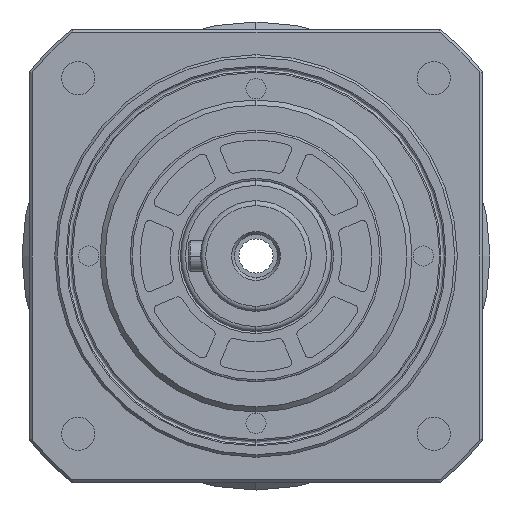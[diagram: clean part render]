
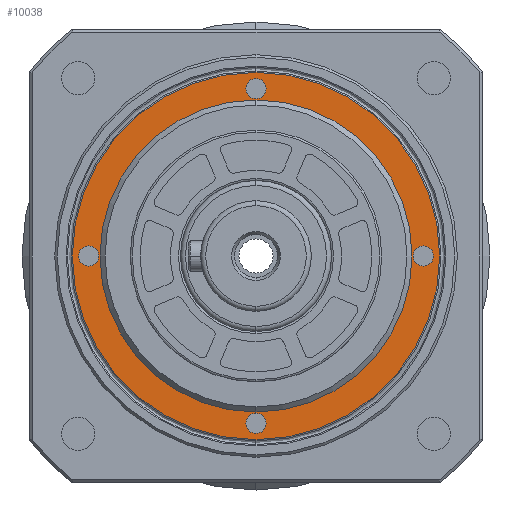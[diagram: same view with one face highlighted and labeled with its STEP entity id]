
A CAD part, left-side view. The second image highlights one B-rep face of the part: STEP entity #10038.
In plain terms, the highlighted planar face has unit normal (-1, 0, 0).
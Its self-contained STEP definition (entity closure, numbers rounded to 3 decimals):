
#954 = EDGE_LOOP ( 'NONE', ( #4642, #4639 ) ) ;
#965 = EDGE_LOOP ( 'NONE', ( #4650, #4647 ) ) ;
#1150 = EDGE_LOOP ( 'NONE', ( #4648, #4645 ) ) ;
#1158 = EDGE_LOOP ( 'NONE', ( #4652, #4649 ) ) ;
#1444 = EDGE_LOOP ( 'NONE', ( #4644, #4641 ) ) ;
#1649 = EDGE_LOOP ( 'NONE', ( #4646, #4643 ) ) ;
#3934 = CARTESIAN_POINT ( 'NONE',  ( 88.9, 2.422, 33.25 ) ) ;
#3939 = DIRECTION ( 'NONE',  ( -1., 0., 0. ) ) ;
#3949 = CARTESIAN_POINT ( 'NONE',  ( 88.9, 2.422, 0. ) ) ;
#3950 = DIRECTION ( 'NONE',  ( 1., 0., 0. ) ) ;
#3951 = DIRECTION ( 'NONE',  ( 0., 0., -1. ) ) ;
#3959 = DIRECTION ( 'NONE',  ( 0., 0., 1. ) ) ;
#3961 = DIRECTION ( 'NONE',  ( -1., 0., 0. ) ) ;
#3962 = CARTESIAN_POINT ( 'NONE',  ( 88.9, 35.672, 0. ) ) ;
#3963 = DIRECTION ( 'NONE',  ( 0., 0., 1. ) ) ;
#3964 = DIRECTION ( 'NONE',  ( -1., 0., 0. ) ) ;
#3965 = CARTESIAN_POINT ( 'NONE',  ( 88.9, 2.422, 33.25 ) ) ;
#3966 = DIRECTION ( 'NONE',  ( -1., 0., 0. ) ) ;
#3967 = DIRECTION ( 'NONE',  ( 0., 0., 1. ) ) ;
#3968 = DIRECTION ( 'NONE',  ( 0., 0., 1. ) ) ;
#3970 = CARTESIAN_POINT ( 'NONE',  ( 88.9, 35.672, 0. ) ) ;
#3974 = CARTESIAN_POINT ( 'NONE',  ( 88.9, 2.422, -33.25 ) ) ;
#3975 = DIRECTION ( 'NONE',  ( -1., 0., 0. ) ) ;
#3977 = DIRECTION ( 'NONE',  ( 0., 0., 1. ) ) ;
#3982 = CARTESIAN_POINT ( 'NONE',  ( 88.9, -30.828, 0. ) ) ;
#3983 = DIRECTION ( 'NONE',  ( -1., 0., 0. ) ) ;
#3984 = DIRECTION ( 'NONE',  ( 0., 0., 1. ) ) ;
#3997 = DIRECTION ( 'NONE',  ( 0., 0., 1. ) ) ;
#3999 = DIRECTION ( 'NONE',  ( -1., 0., 0. ) ) ;
#4000 = DIRECTION ( 'NONE',  ( -1., 0., 0. ) ) ;
#4001 = DIRECTION ( 'NONE',  ( 0., 0., 1. ) ) ;
#4002 = CARTESIAN_POINT ( 'NONE',  ( 88.9, 2.422, 0. ) ) ;
#4006 = DIRECTION ( 'NONE',  ( 0., 0., 1. ) ) ;
#4008 = CARTESIAN_POINT ( 'NONE',  ( 88.9, 2.422, 0. ) ) ;
#4009 = DIRECTION ( 'NONE',  ( -1., 0., 0. ) ) ;
#4011 = CARTESIAN_POINT ( 'NONE',  ( 88.9, 2.422, -33.25 ) ) ;
#4022 = DIRECTION ( 'NONE',  ( 0., 0., 1. ) ) ;
#4024 = DIRECTION ( 'NONE',  ( -1., 0., 0. ) ) ;
#4025 = CARTESIAN_POINT ( 'NONE',  ( 88.9, -30.828, 0. ) ) ;
#4069 = CARTESIAN_POINT ( 'NONE',  ( 88.9, 2.422, 0. ) ) ;
#4071 = DIRECTION ( 'NONE',  ( 1., 0., 0. ) ) ;
#4072 = DIRECTION ( 'NONE',  ( 0., 0., -1. ) ) ;
#4639 = ORIENTED_EDGE ( 'NONE', *, *, #7887, .T. ) ;
#4641 = ORIENTED_EDGE ( 'NONE', *, *, #7873, .T. ) ;
#4642 = ORIENTED_EDGE ( 'NONE', *, *, #7855, .T. ) ;
#4643 = ORIENTED_EDGE ( 'NONE', *, *, #7871, .F. ) ;
#4644 = ORIENTED_EDGE ( 'NONE', *, *, #7874, .T. ) ;
#4645 = ORIENTED_EDGE ( 'NONE', *, *, #7867, .F. ) ;
#4646 = ORIENTED_EDGE ( 'NONE', *, *, #7878, .F. ) ;
#4647 = ORIENTED_EDGE ( 'NONE', *, *, #7863, .F. ) ;
#4648 = ORIENTED_EDGE ( 'NONE', *, *, #7880, .F. ) ;
#4649 = ORIENTED_EDGE ( 'NONE', *, *, #7882, .F. ) ;
#4650 = ORIENTED_EDGE ( 'NONE', *, *, #7883, .F. ) ;
#4652 = ORIENTED_EDGE ( 'NONE', *, *, #7884, .F. ) ;
#5277 = CARTESIAN_POINT ( 'NONE',  ( 88.9, 2.422, 35.25 ) ) ;
#5392 = CARTESIAN_POINT ( 'NONE',  ( 88.9, 2.422, -31.25 ) ) ;
#5482 = CARTESIAN_POINT ( 'NONE',  ( 88.9, 2.422, 31.25 ) ) ;
#5923 = VERTEX_POINT ( 'NONE', #14350 ) ;
#5982 = VERTEX_POINT ( 'NONE', #14329 ) ;
#6039 = VERTEX_POINT ( 'NONE', #14300 ) ;
#6186 = VERTEX_POINT ( 'NONE', #14340 ) ;
#6212 = VERTEX_POINT ( 'NONE', #14774 ) ;
#6633 = VERTEX_POINT ( 'NONE', #14906 ) ;
#6664 = VERTEX_POINT ( 'NONE', #14864 ) ;
#6665 = VERTEX_POINT ( 'NONE', #14865 ) ;
#6686 = VERTEX_POINT ( 'NONE', #14845 ) ;
#7351 = AXIS2_PLACEMENT_3D ( 'NONE', #11571, #11574, #11572 ) ;
#7855 = EDGE_CURVE ( 'NONE', #6664, #6186, #9999, .T. ) ;
#7863 = EDGE_CURVE ( 'NONE', #8800, #8881, #9987, .T. ) ;
#7867 = EDGE_CURVE ( 'NONE', #5923, #6686, #9370, .T. ) ;
#7871 = EDGE_CURVE ( 'NONE', #6039, #8729, #9356, .T. ) ;
#7873 = EDGE_CURVE ( 'NONE', #6633, #6212, #9381, .T. ) ;
#7874 = EDGE_CURVE ( 'NONE', #6212, #6633, #9379, .T. ) ;
#7878 = EDGE_CURVE ( 'NONE', #8729, #6039, #9375, .T. ) ;
#7880 = EDGE_CURVE ( 'NONE', #6686, #5923, #9374, .T. ) ;
#7882 = EDGE_CURVE ( 'NONE', #6665, #5982, #9371, .T. ) ;
#7883 = EDGE_CURVE ( 'NONE', #8881, #8800, #9554, .T. ) ;
#7884 = EDGE_CURVE ( 'NONE', #5982, #6665, #9387, .T. ) ;
#7887 = EDGE_CURVE ( 'NONE', #6186, #6664, #9355, .T. ) ;
#8471 = FACE_BOUND ( 'NONE', #954, .T. ) ;
#8474 = FACE_OUTER_BOUND ( 'NONE', #1444, .T. ) ;
#8478 = FACE_BOUND ( 'NONE', #1649, .T. ) ;
#8484 = FACE_BOUND ( 'NONE', #1150, .T. ) ;
#8485 = FACE_BOUND ( 'NONE', #965, .T. ) ;
#8487 = FACE_BOUND ( 'NONE', #1158, .T. ) ;
#8729 = VERTEX_POINT ( 'NONE', #5392 ) ;
#8800 = VERTEX_POINT ( 'NONE', #5482 ) ;
#8881 = VERTEX_POINT ( 'NONE', #5277 ) ;
#9355 = CIRCLE ( 'NONE', #15141, 31. ) ;
#9356 = CIRCLE ( 'NONE', #15125, 2. ) ;
#9370 = CIRCLE ( 'NONE', #15123, 2. ) ;
#9371 = CIRCLE ( 'NONE', #15136, 2. ) ;
#9374 = CIRCLE ( 'NONE', #15134, 2. ) ;
#9375 = CIRCLE ( 'NONE', #15092, 2. ) ;
#9379 = CIRCLE ( 'NONE', #15127, 36.5 ) ;
#9381 = CIRCLE ( 'NONE', #15126, 36.5 ) ;
#9387 = CIRCLE ( 'NONE', #15138, 2. ) ;
#9554 = CIRCLE ( 'NONE', #15137, 2. ) ;
#9987 = CIRCLE ( 'NONE', #15121, 2. ) ;
#9999 = CIRCLE ( 'NONE', #15119, 31. ) ;
#10038 = ADVANCED_FACE ( 'NONE', ( #8487, #8485, #8484, #8478, #8474, #8471 ), #11575, .T. ) ;
#11571 = CARTESIAN_POINT ( 'NONE',  ( 88.9, 33.422, 0. ) ) ;
#11572 = DIRECTION ( 'NONE',  ( 0., 0., 1. ) ) ;
#11574 = DIRECTION ( 'NONE',  ( -1., 0., 0. ) ) ;
#11575 = PLANE ( 'NONE',  #7351 ) ;
#14300 = CARTESIAN_POINT ( 'NONE',  ( 88.9, 2.422, -35.25 ) ) ;
#14329 = CARTESIAN_POINT ( 'NONE',  ( 88.9, 35.672, 2. ) ) ;
#14340 = CARTESIAN_POINT ( 'NONE',  ( 88.9, 2.422, 31. ) ) ;
#14350 = CARTESIAN_POINT ( 'NONE',  ( 88.9, -30.828, -2. ) ) ;
#14774 = CARTESIAN_POINT ( 'NONE',  ( 88.9, 2.422, -36.5 ) ) ;
#14845 = CARTESIAN_POINT ( 'NONE',  ( 88.9, -30.828, 2. ) ) ;
#14864 = CARTESIAN_POINT ( 'NONE',  ( 88.9, 2.422, -31. ) ) ;
#14865 = CARTESIAN_POINT ( 'NONE',  ( 88.9, 35.672, -2. ) ) ;
#14906 = CARTESIAN_POINT ( 'NONE',  ( 88.9, 2.422, 36.5 ) ) ;
#15092 = AXIS2_PLACEMENT_3D ( 'NONE', #3974, #3975, #3977 ) ;
#15119 = AXIS2_PLACEMENT_3D ( 'NONE', #4069, #4071, #4072 ) ;
#15121 = AXIS2_PLACEMENT_3D ( 'NONE', #3934, #3939, #3968 ) ;
#15123 = AXIS2_PLACEMENT_3D ( 'NONE', #4025, #4024, #4022 ) ;
#15125 = AXIS2_PLACEMENT_3D ( 'NONE', #4011, #4009, #4006 ) ;
#15126 = AXIS2_PLACEMENT_3D ( 'NONE', #4008, #4000, #4001 ) ;
#15127 = AXIS2_PLACEMENT_3D ( 'NONE', #4002, #3999, #3997 ) ;
#15134 = AXIS2_PLACEMENT_3D ( 'NONE', #3982, #3983, #3984 ) ;
#15136 = AXIS2_PLACEMENT_3D ( 'NONE', #3970, #3966, #3967 ) ;
#15137 = AXIS2_PLACEMENT_3D ( 'NONE', #3965, #3961, #3959 ) ;
#15138 = AXIS2_PLACEMENT_3D ( 'NONE', #3962, #3964, #3963 ) ;
#15141 = AXIS2_PLACEMENT_3D ( 'NONE', #3949, #3950, #3951 ) ;
